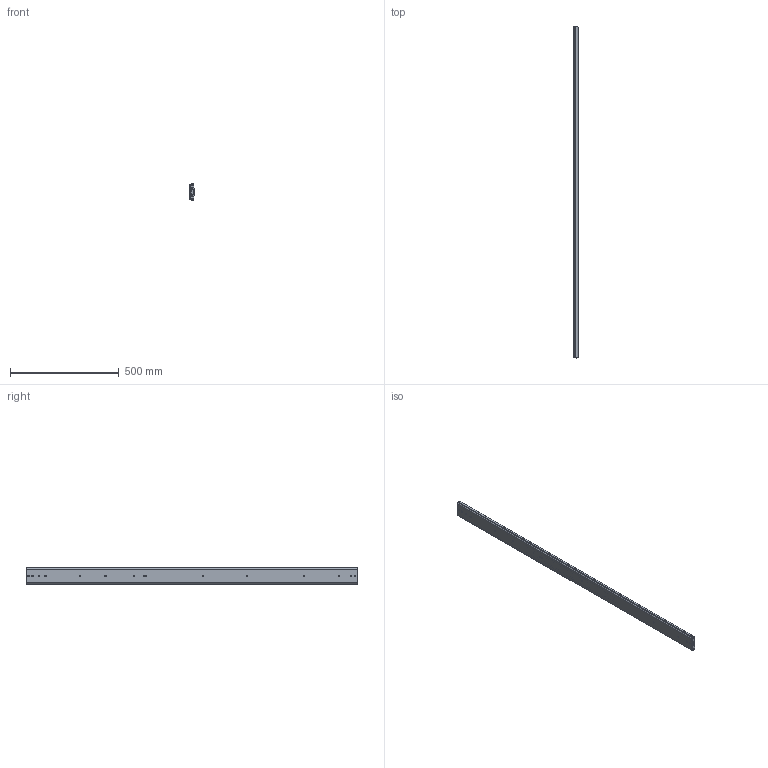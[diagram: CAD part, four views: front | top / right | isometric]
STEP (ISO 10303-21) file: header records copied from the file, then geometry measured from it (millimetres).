
FILE_DESCRIPTION(/* description */ ('Unknown'),/* implementation_level */ '2;1');
FILE_NAME(/* name */ '76J01-60 close',/* time_stamp */ '2024-07-30T14:03:58+08:00',/* author */ ('Unknown'),/* organization */ ('Unknown'),/* preprocessor_version */ 'ST-DEVELOPER v18.104',/* originating_system */ 'Solid Edge',/* authorisation */ 'Unknown');
FILE_SCHEMA (('AUTOMOTIVE_DESIGN {1 0 10303 214 3 1 1}'));
Length unit declared in the file: millimetre
Products named in the file (4): 76J01-60 close; 76J01 60 inch 內; 76J01 60 吋
Assembly tree (3 placements, depth 2):
  76J01-60 close
    76J01 60 inch 內
    76J01 60 吋
    76J01 60 吋
Bounding box: 19.3 x 1524 x 76.76 mm (x, y, z)
Volume: 1205080 mm3; surface area: 749159.7 mm2
Topology: 3 solids, 3 shells, 203 faces, 634 edges, 431 vertices
Faces by surface type: plane 104, cylinder 99
Full cylindrical faces by diameter (mm): 5.2 x23, 7.1 x2
Entity records: 7445 total; most frequent: CARTESIAN_POINT 1203, DIRECTION 1194, ORIENTED_EDGE 1168, EDGE_CURVE 584, VERTEX_POINT 406, AXIS2_PLACEMENT_3D 405, LINE 384, VECTOR 384
